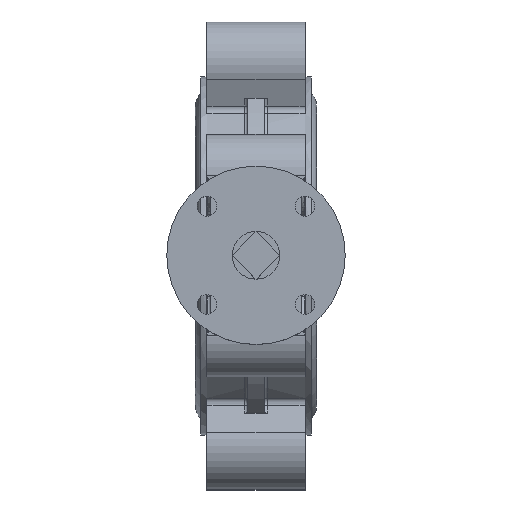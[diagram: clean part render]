
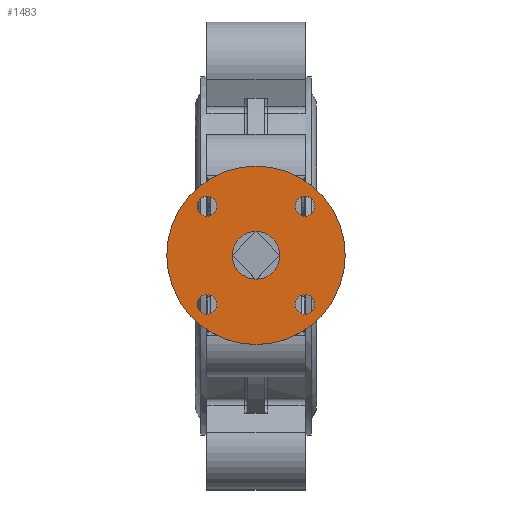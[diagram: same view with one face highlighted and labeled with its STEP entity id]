
A CAD part, top view. The second image highlights one B-rep face of the part: STEP entity #1483.
In plain terms, the highlighted planar face has unit normal (0, 0, 1).
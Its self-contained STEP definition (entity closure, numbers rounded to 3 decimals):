
#1483=ADVANCED_FACE('',(#4789,#4791,#4793,#4795,#4797,#4799),#4801,.T.);
#4789=FACE_BOUND('',#4790,.T.);
#4790=EDGE_LOOP('',(#8734));
#4791=FACE_BOUND('',#4792,.T.);
#4792=EDGE_LOOP('',(#8735));
#4793=FACE_BOUND('',#4794,.T.);
#4794=EDGE_LOOP('',(#8736));
#4795=FACE_BOUND('',#4796,.T.);
#4796=EDGE_LOOP('',(#8737));
#4797=FACE_BOUND('',#4798,.T.);
#4798=EDGE_LOOP('',(#8738));
#4799=FACE_BOUND('',#4800,.T.);
#4800=EDGE_LOOP('',(#8739));
#4801=PLANE('',#4802);
#4802=AXIS2_PLACEMENT_3D('',#4803,#4804,#4805);
#4803=CARTESIAN_POINT('',(0.,0.,190.));
#4804=DIRECTION('',(0.,0.,1.));
#4805=DIRECTION('',(1.,0.,0.));
#8734=ORIENTED_EDGE('',*,*,#11026,.T.);
#8735=ORIENTED_EDGE('',*,*,#11339,.T.);
#8736=ORIENTED_EDGE('',*,*,#11033,.T.);
#8737=ORIENTED_EDGE('',*,*,#11032,.T.);
#8738=ORIENTED_EDGE('',*,*,#11031,.T.);
#8739=ORIENTED_EDGE('',*,*,#11030,.T.);
#11026=EDGE_CURVE('',#12868,#12868,#12869,.T.);
#11030=EDGE_CURVE('',#12873,#12873,#12874,.F.);
#11031=EDGE_CURVE('',#12875,#12875,#12876,.F.);
#11032=EDGE_CURVE('',#12877,#12877,#12878,.F.);
#11033=EDGE_CURVE('',#12879,#12879,#12880,.F.);
#11339=EDGE_CURVE('',#13422,#13422,#13423,.F.);
#12868=VERTEX_POINT('',#16684);
#12869=CIRCLE('',#16685,45.);
#12873=VERTEX_POINT('',#16700);
#12874=CIRCLE('',#16701,5.);
#12875=VERTEX_POINT('',#16705);
#12876=CIRCLE('',#16706,5.);
#12877=VERTEX_POINT('',#16710);
#12878=CIRCLE('',#16711,5.);
#12879=VERTEX_POINT('',#16715);
#12880=CIRCLE('',#16716,5.);
#13422=VERTEX_POINT('',#18215);
#13423=CIRCLE('',#18216,12.021);
#16684=CARTESIAN_POINT('',(-45.,0.,190.));
#16685=AXIS2_PLACEMENT_3D('',#16686,#16687,#16688);
#16686=CARTESIAN_POINT('',(0.,0.,190.));
#16687=DIRECTION('',(0.,0.,1.));
#16688=DIRECTION('',(-1.,0.,0.));
#16700=CARTESIAN_POINT('',(-24.749,29.749,190.));
#16701=AXIS2_PLACEMENT_3D('',#16702,#16703,#16704);
#16702=CARTESIAN_POINT('',(-24.749,24.749,190.));
#16703=DIRECTION('',(0.,0.,1.));
#16704=DIRECTION('',(0.,1.,0.));
#16705=CARTESIAN_POINT('',(29.749,24.749,190.));
#16706=AXIS2_PLACEMENT_3D('',#16707,#16708,#16709);
#16707=CARTESIAN_POINT('',(24.749,24.749,190.));
#16708=DIRECTION('',(0.,0.,1.));
#16709=DIRECTION('',(1.,0.,0.));
#16710=CARTESIAN_POINT('',(24.749,-29.749,190.));
#16711=AXIS2_PLACEMENT_3D('',#16712,#16713,#16714);
#16712=CARTESIAN_POINT('',(24.749,-24.749,190.));
#16713=DIRECTION('',(0.,0.,1.));
#16714=DIRECTION('',(0.,-1.,0.));
#16715=CARTESIAN_POINT('',(-29.749,-24.749,190.));
#16716=AXIS2_PLACEMENT_3D('',#16717,#16718,#16719);
#16717=CARTESIAN_POINT('',(-24.749,-24.749,190.));
#16718=DIRECTION('',(0.,0.,1.));
#16719=DIRECTION('',(-1.,0.,0.));
#18215=CARTESIAN_POINT('',(0.,-12.021,190.));
#18216=AXIS2_PLACEMENT_3D('',#18217,#18218,#18219);
#18217=CARTESIAN_POINT('',(0.,0.,190.));
#18218=DIRECTION('',(0.,0.,1.));
#18219=DIRECTION('',(0.,-1.,0.));
